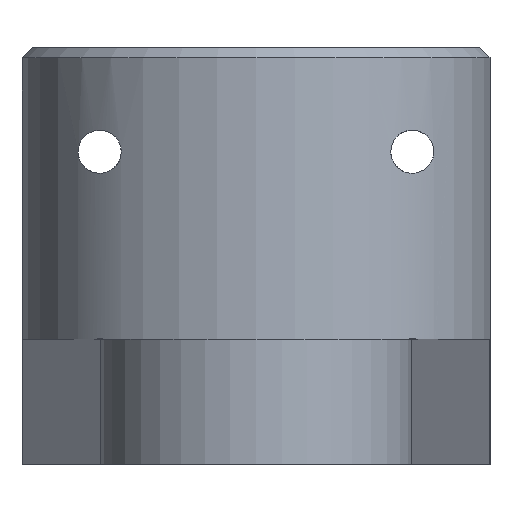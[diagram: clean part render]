
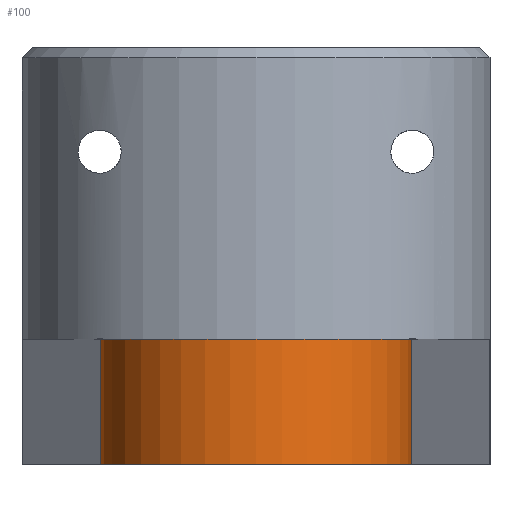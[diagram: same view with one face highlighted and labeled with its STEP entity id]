
A CAD part, left-side view. The second image highlights one B-rep face of the part: STEP entity #100.
In plain terms, the highlighted cylindrical face has radius 15 mm (diameter 30 mm), a partial arc.
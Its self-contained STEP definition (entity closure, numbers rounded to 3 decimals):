
#100 = ADVANCED_FACE( '', ( #225 ), #226, .T. );
#225 = FACE_OUTER_BOUND( '', #405, .T. );
#226 = CYLINDRICAL_SURFACE( '', #406, 15. );
#405 = EDGE_LOOP( '', ( #595, #596, #597, #598 ) );
#406 = AXIS2_PLACEMENT_3D( '', #599, #600, #601 );
#595 = ORIENTED_EDGE( '', *, *, #902, .F. );
#596 = ORIENTED_EDGE( '', *, *, #903, .F. );
#597 = ORIENTED_EDGE( '', *, *, #904, .T. );
#598 = ORIENTED_EDGE( '', *, *, #905, .T. );
#599 = CARTESIAN_POINT( '', ( -100., 0., -28. ) );
#600 = DIRECTION( '', ( 0., 0., 1. ) );
#601 = DIRECTION( '', ( -1., 0., 0. ) );
#902 = EDGE_CURVE( '', #1051, #1052, #1053, .T. );
#903 = EDGE_CURVE( '', #1054, #1051, #1055, .T. );
#904 = EDGE_CURVE( '', #1054, #1056, #1057, .T. );
#905 = EDGE_CURVE( '', #1056, #1052, #1058, .T. );
#1051 = VERTEX_POINT( '', #1472 );
#1052 = VERTEX_POINT( '', #1473 );
#1053 = CIRCLE( '', #1474, 15. );
#1054 = VERTEX_POINT( '', #1475 );
#1055 = LINE( '', #1476, #1477 );
#1056 = VERTEX_POINT( '', #1478 );
#1057 = CIRCLE( '', #1479, 15. );
#1058 = LINE( '', #1480, #1481 );
#1472 = CARTESIAN_POINT( '', ( -101.125, -14.958, -40. ) );
#1473 = CARTESIAN_POINT( '', ( -101.125, 14.958, -40. ) );
#1474 = AXIS2_PLACEMENT_3D( '', #2006, #2007, #2008 );
#1475 = CARTESIAN_POINT( '', ( -101.125, -14.958, -28. ) );
#1476 = CARTESIAN_POINT( '', ( -101.125, -14.958, -28. ) );
#1477 = VECTOR( '', #2009, 1000. );
#1478 = CARTESIAN_POINT( '', ( -101.125, 14.958, -28. ) );
#1479 = AXIS2_PLACEMENT_3D( '', #2010, #2011, #2012 );
#1480 = CARTESIAN_POINT( '', ( -101.125, 14.958, -28. ) );
#1481 = VECTOR( '', #2013, 1000. );
#2006 = CARTESIAN_POINT( '', ( -100., 0., -40. ) );
#2007 = DIRECTION( '', ( 0., 0., -1. ) );
#2008 = DIRECTION( '', ( 0., 1., 0. ) );
#2009 = DIRECTION( '', ( 0., 0., -1. ) );
#2010 = CARTESIAN_POINT( '', ( -100., 0., -28. ) );
#2011 = DIRECTION( '', ( 0., 0., -1. ) );
#2012 = DIRECTION( '', ( 0., 1., 0. ) );
#2013 = DIRECTION( '', ( 0., 0., -1. ) );
